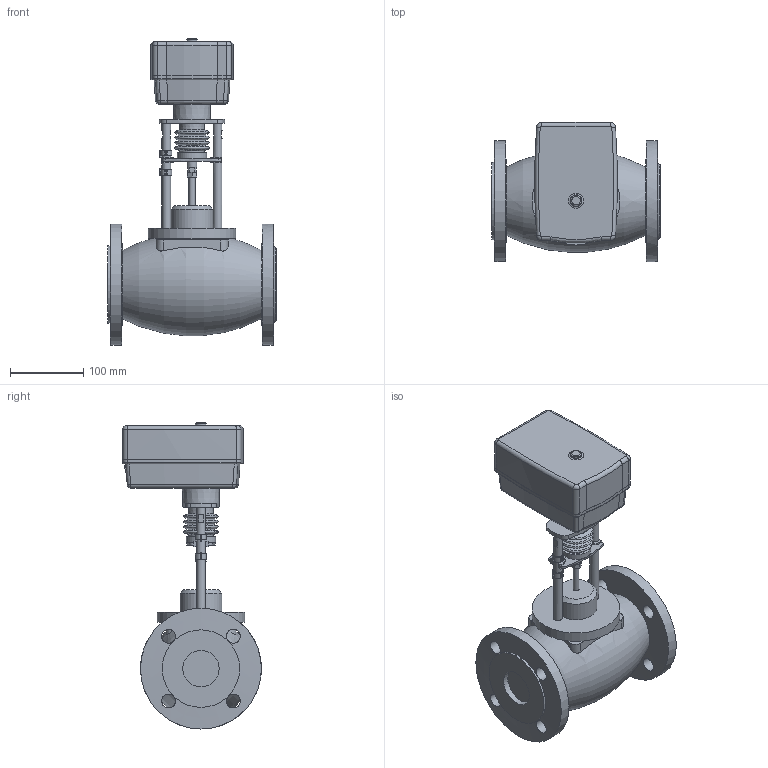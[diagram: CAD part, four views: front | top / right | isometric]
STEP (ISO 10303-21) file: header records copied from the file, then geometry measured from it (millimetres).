
FILE_DESCRIPTION(/* description */ ('Unknown'),/* implementation_level */ '2;1');
FILE_NAME(/* name */ 'Клапан TRV-050-101',/* time_stamp */ '2021-12-06T16:17:25+03:00',/* author */ ('Unknown'),/* organization */ ('Unknown'),/* preprocessor_version */ 'ST-DEVELOPER v16.7',/* originating_system */ 'DEX',/* authorisation */ $);
FILE_SCHEMA (('AUTOMOTIVE_DESIGN {1 0 10303 214 3 1 1}'));
Length unit declared in the file: millimetre
Products named in the file (1): 抔黽鳧 TRV-050-101
Bounding box: 230 x 189.46 x 417.9 mm (x, y, z)
Volume: 4887688.7 mm3; surface area: 304643.4 mm2
Topology: 1 solids, 1 shells, 300 faces, 786 edges, 504 vertices
Faces by surface type: plane 153, cylinder 77, torus 33, cone 27, bspline 6, sphere 4
Full cylindrical faces by diameter (mm): 8.2 x1, 12.002 x4, 13 x1, 15 x1, 19 x8, 33.4 x1, 40 x1, 49.6 x2, 57 x1, 105.788 x1, 120 x1, 165 x2
Entity records: 11255 total; most frequent: CARTESIAN_POINT 2141, DIRECTION 1473, ORIENTED_EDGE 1378, EDGE_CURVE 689, AXIS2_PLACEMENT_3D 571, VERTEX_POINT 462, EDGE_LOOP 395, FACE_BOUND 395
